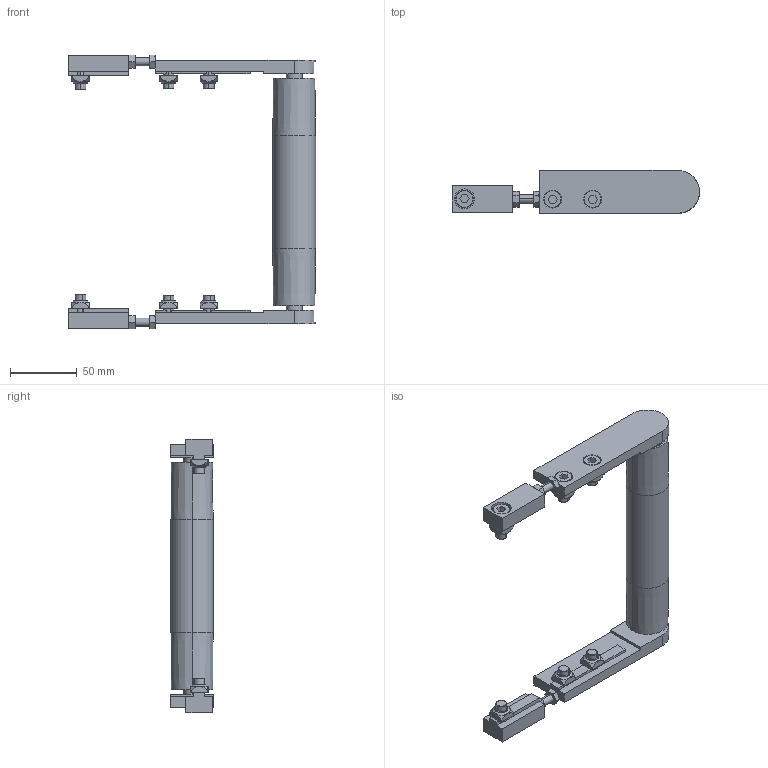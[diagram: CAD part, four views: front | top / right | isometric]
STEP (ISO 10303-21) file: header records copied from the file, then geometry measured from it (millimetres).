
FILE_DESCRIPTION (( 'STEP AP203' ), '1' );
FILE_NAME ('084.030.KI.150.STEP', '2019-07-29T09:47:19', ( '' ), ( '' ), 'SwSTEP 2.0', 'SolidWorks 2018', '' );
FILE_SCHEMA (( 'CONFIG_CONTROL_DESIGN' ));
Length unit declared in the file: millimetre
Products named in the file (12): 084.030.KI.150; 084.802.008; 084.301.000 VITI ALUSIC_084.301.002; 084.302.000 DADI ALUSIC 13x13-1_084.302.004; GRANI A PUNTA CONICA UNI 5927 INOX_M6x30 UNI 5927 INOX; 084.802.036; 084.801.016 SX; 084.301.000 VITI ALUSIC_084.301.003; 084.030.122; GRANI A PUNTA CONICA UNI 5927 INOX_M6x20 UNI 5927 INOX; 084.030.121_084.030.000; 084.801.016 DX
Assembly tree (22 placements, depth 2):
  084.030.KI.150
    084.030.121_084.030.000
    084.802.036  x2
    084.030.122
    084.801.016 DX
    084.801.016 SX
    084.802.008  x2
    GRANI A PUNTA CONICA UNI 5927 INOX_M6x20 UNI 5927 INOX
    GRANI A PUNTA CONICA UNI 5927 INOX_M6x30 UNI 5927 INOX
    084.301.000 VITI ALUSIC_084.301.002  x4
    084.301.000 VITI ALUSIC_084.301.003  x2
    084.302.000 DADI ALUSIC 13x13-1_084.302.004  x6
Bounding box: 185 x 32 x 205 mm (x, y, z)
Volume: 165504 mm3; surface area: 91578.4 mm2
Topology: 28 solids, 30 shells, 576 faces, 1370 edges, 874 vertices
Faces by surface type: plane 246, cylinder 170, torus 84, cone 52, bspline 24
Entity records: 10646 total; most frequent: CARTESIAN_POINT 2131, DIRECTION 1540, ORIENTED_EDGE 1376, EDGE_CURVE 688, AXIS2_PLACEMENT_3D 586, VERTEX_POINT 439, LINE 368, VECTOR 368
